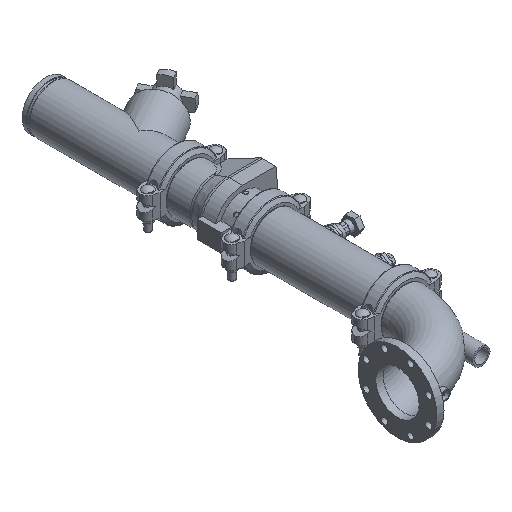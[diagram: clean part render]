
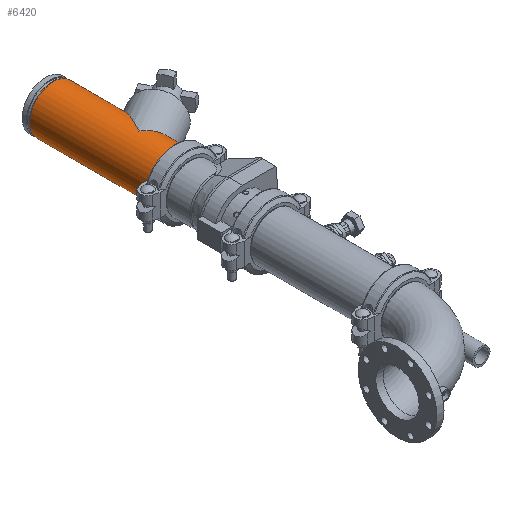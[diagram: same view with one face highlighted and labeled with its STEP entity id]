
A CAD part, isometric view. The second image highlights one B-rep face of the part: STEP entity #6420.
In plain terms, the highlighted cylindrical face has radius 84.138 mm (diameter 168.275 mm), a full revolution.
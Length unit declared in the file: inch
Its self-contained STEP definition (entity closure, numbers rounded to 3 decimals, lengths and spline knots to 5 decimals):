
#122=ELLIPSE('',#7001,6.625,3.3125);
#123=ELLIPSE('',#7002,3.82495,3.3125);
#124=ELLIPSE('',#7005,3.82495,3.3125);
#125=ELLIPSE('',#7006,6.625,3.3125);
#212=LINE('',#9873,#683);
#213=LINE('',#9879,#684);
#683=VECTOR('',#7892,3.3125);
#684=VECTOR('',#7897,3.3125);
#1125=CYLINDRICAL_SURFACE('',#6998,3.3125);
#1349=FACE_OUTER_BOUND('',#1711,.T.);
#1711=EDGE_LOOP('',(#4153,#4154,#4155,#4156,#4157,#4158,#4159,#4160,#4161,
#4162,#4163,#4164));
#2157=CIRCLE('',#6999,3.3125);
#2158=CIRCLE('',#7000,3.3125);
#2159=CIRCLE('',#7003,3.3125);
#2160=CIRCLE('',#7004,3.3125);
#2539=VERTEX_POINT('',#9868);
#2540=VERTEX_POINT('',#9869);
#2541=VERTEX_POINT('',#9872);
#2542=VERTEX_POINT('',#9874);
#2543=VERTEX_POINT('',#9876);
#2544=VERTEX_POINT('',#9878);
#2545=VERTEX_POINT('',#9880);
#2546=VERTEX_POINT('',#9883);
#3179=EDGE_CURVE('',#2539,#2540,#2157,.T.);
#3180=EDGE_CURVE('',#2540,#2539,#2158,.T.);
#3181=EDGE_CURVE('',#2540,#2541,#212,.T.);
#3182=EDGE_CURVE('',#2541,#2542,#122,.T.);
#3183=EDGE_CURVE('',#2542,#2543,#123,.T.);
#3184=EDGE_CURVE('',#2543,#2544,#213,.T.);
#3185=EDGE_CURVE('',#2544,#2545,#2159,.T.);
#3186=EDGE_CURVE('',#2545,#2544,#2160,.T.);
#3187=EDGE_CURVE('',#2543,#2546,#124,.T.);
#3188=EDGE_CURVE('',#2546,#2541,#125,.T.);
#4153=ORIENTED_EDGE('',*,*,#3179,.F.);
#4154=ORIENTED_EDGE('',*,*,#3180,.F.);
#4155=ORIENTED_EDGE('',*,*,#3181,.T.);
#4156=ORIENTED_EDGE('',*,*,#3182,.T.);
#4157=ORIENTED_EDGE('',*,*,#3183,.T.);
#4158=ORIENTED_EDGE('',*,*,#3184,.T.);
#4159=ORIENTED_EDGE('',*,*,#3185,.T.);
#4160=ORIENTED_EDGE('',*,*,#3186,.T.);
#4161=ORIENTED_EDGE('',*,*,#3184,.F.);
#4162=ORIENTED_EDGE('',*,*,#3187,.T.);
#4163=ORIENTED_EDGE('',*,*,#3188,.T.);
#4164=ORIENTED_EDGE('',*,*,#3181,.F.);
#6420=ADVANCED_FACE('',(#1349),#1125,.T.);
#6998=AXIS2_PLACEMENT_3D('',#9867,#7886,#7887);
#6999=AXIS2_PLACEMENT_3D('',#9870,#7888,#7889);
#7000=AXIS2_PLACEMENT_3D('',#9871,#7890,#7891);
#7001=AXIS2_PLACEMENT_3D('',#9875,#7893,#7894);
#7002=AXIS2_PLACEMENT_3D('',#9877,#7895,#7896);
#7003=AXIS2_PLACEMENT_3D('',#9881,#7898,#7899);
#7004=AXIS2_PLACEMENT_3D('',#9882,#7900,#7901);
#7005=AXIS2_PLACEMENT_3D('',#9884,#7902,#7903);
#7006=AXIS2_PLACEMENT_3D('',#9885,#7904,#7905);
#7886=DIRECTION('center_axis',(1.,0.,0.));
#7887=DIRECTION('ref_axis',(0.,1.,0.));
#7888=DIRECTION('center_axis',(1.,0.,0.));
#7889=DIRECTION('ref_axis',(0.,0.,-1.));
#7890=DIRECTION('center_axis',(1.,0.,0.));
#7891=DIRECTION('ref_axis',(0.,0.,-1.));
#7892=DIRECTION('',(-1.,0.,0.));
#7893=DIRECTION('center_axis',(0.5,0.866,0.));
#7894=DIRECTION('ref_axis',(-0.866,0.5,0.));
#7895=DIRECTION('center_axis',(-0.866,0.5,0.));
#7896=DIRECTION('ref_axis',(-0.5,-0.866,0.));
#7897=DIRECTION('',(-1.,0.,0.));
#7898=DIRECTION('center_axis',(1.,0.,0.));
#7899=DIRECTION('ref_axis',(0.,0.,-1.));
#7900=DIRECTION('center_axis',(1.,0.,0.));
#7901=DIRECTION('ref_axis',(0.,0.,-1.));
#7902=DIRECTION('center_axis',(-0.866,0.5,0.));
#7903=DIRECTION('ref_axis',(-0.5,-0.866,0.));
#7904=DIRECTION('center_axis',(0.5,0.866,0.));
#7905=DIRECTION('ref_axis',(-0.866,0.5,0.));
#9867=CARTESIAN_POINT('Origin',(0.,0.,
0.));
#9868=CARTESIAN_POINT('',(8.44,3.3125,0.));
#9869=CARTESIAN_POINT('',(8.44,-3.3125,0.));
#9870=CARTESIAN_POINT('Origin',(8.44,0.,0.));
#9871=CARTESIAN_POINT('Origin',(8.44,0.,0.));
#9872=CARTESIAN_POINT('',(2.15155,-3.3125,0.));
#9873=CARTESIAN_POINT('',(0.,-3.3125,0.));
#9874=CARTESIAN_POINT('',(-3.58586,0.,-3.3125));
#9875=CARTESIAN_POINT('Origin',(-3.58586,0.,
0.));
#9876=CARTESIAN_POINT('',(-5.49834,-3.3125,0.));
#9877=CARTESIAN_POINT('Origin',(-3.58586,0.,
0.));
#9878=CARTESIAN_POINT('',(-8.44,-3.3125,0.));
#9879=CARTESIAN_POINT('',(0.,-3.3125,0.));
#9880=CARTESIAN_POINT('',(-8.44,3.3125,0.));
#9881=CARTESIAN_POINT('Origin',(-8.44,0.,0.));
#9882=CARTESIAN_POINT('Origin',(-8.44,0.,0.));
#9883=CARTESIAN_POINT('',(-3.58586,0.,3.3125));
#9884=CARTESIAN_POINT('Origin',(-3.58586,0.,
0.));
#9885=CARTESIAN_POINT('Origin',(-3.58586,0.,
0.));
